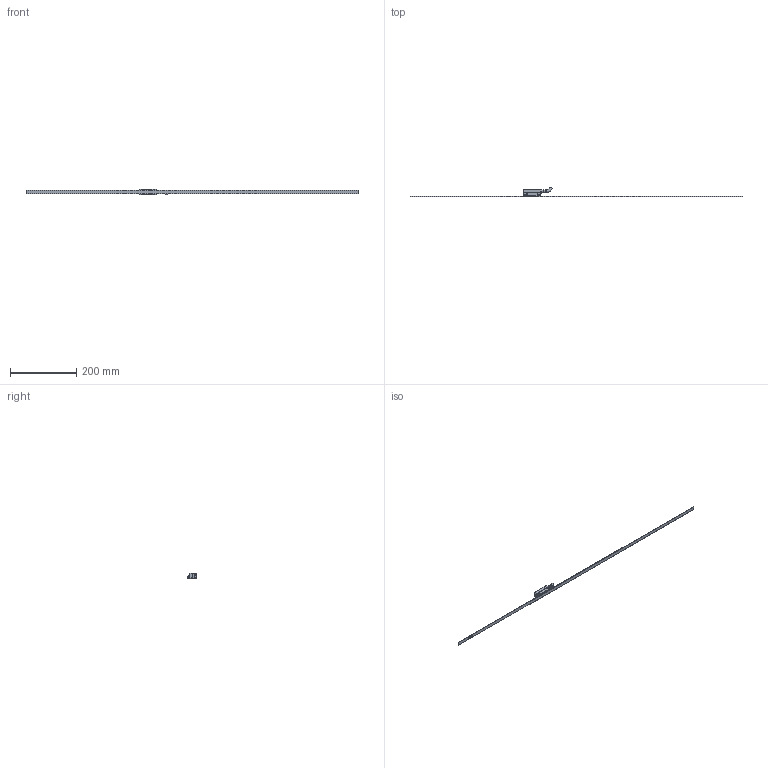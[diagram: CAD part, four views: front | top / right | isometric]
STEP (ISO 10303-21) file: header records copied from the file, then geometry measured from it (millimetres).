
FILE_DESCRIPTION (( 'STEP AP214' ), '1' );
FILE_NAME ('LA12_AS10_scale.STEP', '2021-10-22T11:23:31', ( '' ), ( '' ), 'SwSTEP 2.0', 'SolidWorks 2020', '' );
FILE_SCHEMA (( 'AUTOMOTIVE_DESIGN' ));
Length unit declared in the file: millimetre
Products named in the file (3): LA12_AS10_scale; AS10_magnetic_scale; LA12_readhead
Assembly tree (2 placements, depth 2):
  LA12_AS10_scale
    AS10_magnetic_scale
    LA12_readhead
Bounding box: 1000 x 27.85 x 16.28 mm (x, y, z)
Volume: 29551 mm3; surface area: 48763 mm2
Topology: 3 solids, 4 shells, 286 faces, 663 edges, 400 vertices
Faces by surface type: plane 122, cylinder 86, cone 56, torus 16, bspline 4, sphere 2
Entity records: 9290 total; most frequent: CARTESIAN_POINT 1686, DIRECTION 1444, ORIENTED_EDGE 1318, EDGE_CURVE 659, AXIS2_PLACEMENT_3D 522, VERTEX_POINT 400, LINE 400, VECTOR 400
